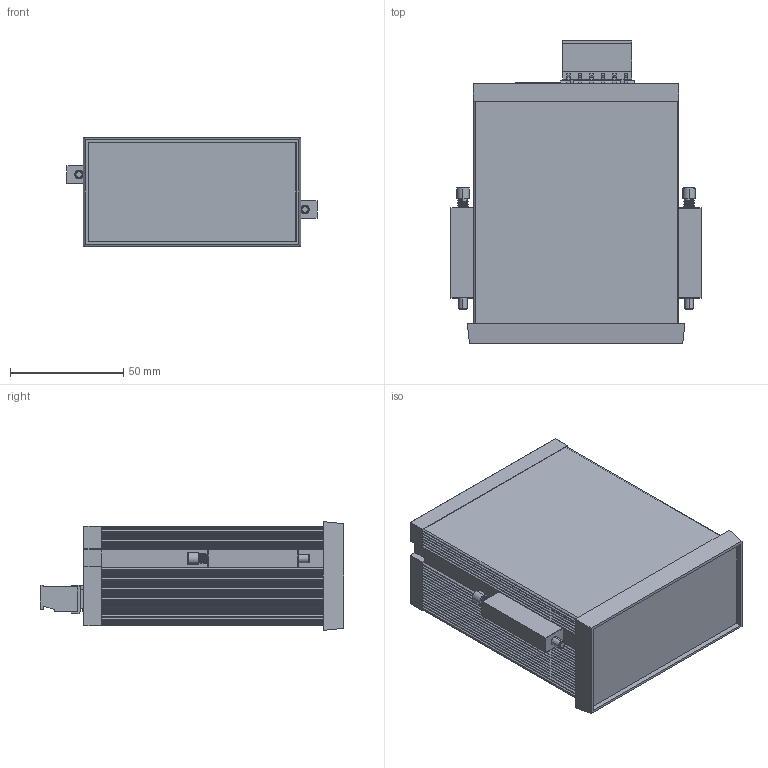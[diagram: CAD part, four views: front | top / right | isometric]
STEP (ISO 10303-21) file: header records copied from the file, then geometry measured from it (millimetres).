
FILE_DESCRIPTION(('FreeCAD Model'),'2;1');
FILE_NAME('Open CASCADE Shape Model','2025-07-29T08:22:15',('Author'),( ''),'Open CASCADE STEP processor 7.5','FreeCAD','Unknown');
FILE_SCHEMA(('AUTOMOTIVE_DESIGN { 1 0 10303 214 1 1 1 1 }'));
Length unit declared in the file: millimetre
Products named in the file (48): PM1026_komplett; Rückwand; Frontscheibe; Gehäuse; 01_109_L100_PRT; AGGANCIO_INCABOX_M_PRT; AGGANCIO_INCABOX_M_PRT001; CORNICE_POSTERIORE_48X96_PRT; PM1026; m1026_exp_PCB; Parts; X1; P1; P2; P3; S1; PCB; Board; d1026_exp_PCB001; Parts001001; H007; H008; H009; H010; H011; PCB001001; Board002; Assem1; 6913525100xx_CAGE; 6913525100xx_CAGE001; 6913525100xx_CAGE002; 6913525100xx_CAGE003; 6913525100xx_CAGE004; 6913525100xx_CAGE005; 6913525100xx; 6913525100xx001; 6913525100xx002; 6913525100xx003; 6913525100xx004; 6913525100xx005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
Assembly tree (47 placements, depth 5):
  PM1026_komplett
    Rückwand
    Frontscheibe
    Gehäuse
      01_109_L100_PRT
      AGGANCIO_INCABOX_M_PRT
      AGGANCIO_INCABOX_M_PRT001
      CORNICE_POSTERIORE_48X96_PRT
    PM1026
      m1026_exp_PCB
        Parts
          X1
          P1
          P2
          P3
          S1
        PCB
          Board
      d1026_exp_PCB001
        Parts001001
          H007
          H008
          H009
          H010
          H011
        PCB001001
          Board002
    Assem1
      6913525100xx_CAGE
      6913525100xx_CAGE001
      6913525100xx_CAGE002
      6913525100xx_CAGE003
      6913525100xx_CAGE004
      6913525100xx_CAGE005
      6913525100xx
      6913525100xx001
      6913525100xx002
      6913525100xx003
      6913525100xx004
      6913525100xx005
      6913525100xx_VIS
      6913525100xx_VIS001
      6913525100xx_VIS002
      6913525100xx_VIS003
      6913525100xx_VIS004
      6913525100xx_VIS005
      691343510006
      691343510006_BAS
Bounding box: 110.51 x 134 x 48 mm (x, y, z)
Volume: 122075.6 mm3; surface area: 134098.1 mm2
Topology: 65 solids, 68 shells, 4523 faces, 18998 edges, 40486 vertices
Faces by surface type: plane 3028, cylinder 807, bspline 586, torus 40, cone 38, sphere 24
Full cylindrical faces by diameter (mm): 0.502 x88, 0.815 x8, 0.902 x117, 1.002 x18, 1.102 x2, 1.302 x7, 1.5 x6, 2.2 x6, 2.7 x6, 2.75 x6, 2.9 x6, 3 x6, 3.7 x6, 3.75 x6, 4.502 x2
Entity records: 487606 total; most frequent: CARTESIAN_POINT 162364, DIRECTION 48081, LINE 34669, VECTOR 34669, ORIENTED_EDGE 24256, PCURVE 24256, DEFINITIONAL_REPRESENTATION 24256, EDGE_CURVE 12128
